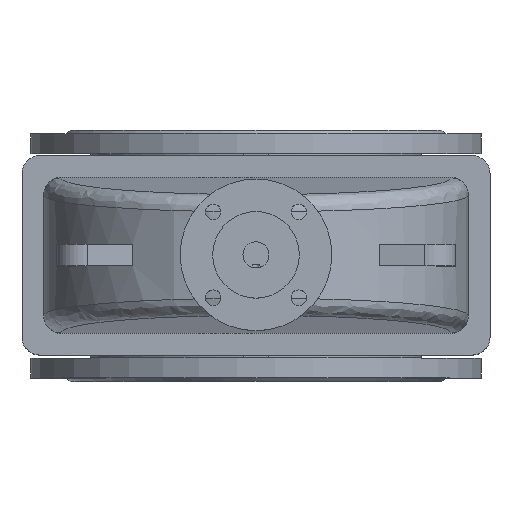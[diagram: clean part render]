
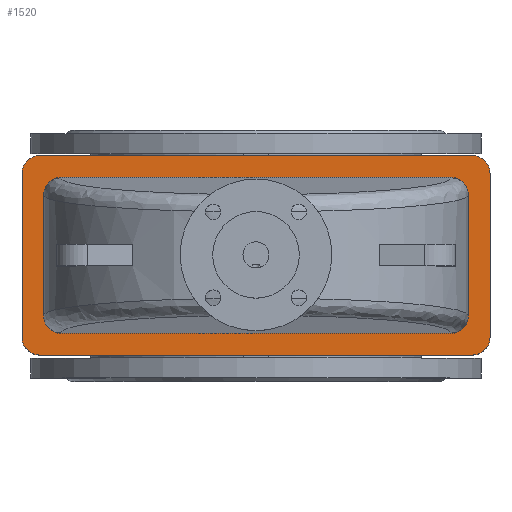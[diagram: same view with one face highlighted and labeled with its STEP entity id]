
A CAD part, top view. The second image highlights one B-rep face of the part: STEP entity #1520.
In plain terms, the highlighted planar face has unit normal (0, 0, 1).
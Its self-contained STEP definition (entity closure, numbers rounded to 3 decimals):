
#1520=ADVANCED_FACE('',(#3805,#3807),#3809,.T.);
#3805=FACE_BOUND('',#3806,.T.);
#3806=EDGE_LOOP('',(#5539,#5540,#5541,#5542,#5543,#5544,#5545,#5546));
#3807=FACE_BOUND('',#3808,.T.);
#3808=EDGE_LOOP('',(#5547,#5548,#5549,#5550,#5551,#5552,#5553,#5554));
#3809=PLANE('',#3810);
#3810=AXIS2_PLACEMENT_3D('',#3811,#3812,#3813);
#3811=CARTESIAN_POINT('',(0.,0.,416.));
#3812=DIRECTION('',(0.,-0.,1.));
#3813=DIRECTION('',(0.,1.,0.));
#5539=ORIENTED_EDGE('',*,*,#6086,.F.);
#5540=ORIENTED_EDGE('',*,*,#6099,.T.);
#5541=ORIENTED_EDGE('',*,*,#6098,.F.);
#5542=ORIENTED_EDGE('',*,*,#6096,.T.);
#5543=ORIENTED_EDGE('',*,*,#6094,.F.);
#5544=ORIENTED_EDGE('',*,*,#6092,.T.);
#5545=ORIENTED_EDGE('',*,*,#6090,.F.);
#5546=ORIENTED_EDGE('',*,*,#6087,.T.);
#5547=ORIENTED_EDGE('',*,*,#6100,.F.);
#5548=ORIENTED_EDGE('',*,*,#6101,.F.);
#5549=ORIENTED_EDGE('',*,*,#6102,.F.);
#5550=ORIENTED_EDGE('',*,*,#6103,.F.);
#5551=ORIENTED_EDGE('',*,*,#6104,.F.);
#5552=ORIENTED_EDGE('',*,*,#6105,.F.);
#5553=ORIENTED_EDGE('',*,*,#6106,.F.);
#5554=ORIENTED_EDGE('',*,*,#6107,.F.);
#6086=EDGE_CURVE('',#6815,#6813,#6817,.F.);
#6087=EDGE_CURVE('',#6818,#6813,#6819,.T.);
#6090=EDGE_CURVE('',#6818,#6821,#6823,.F.);
#6092=EDGE_CURVE('',#6824,#6821,#6826,.T.);
#6094=EDGE_CURVE('',#6824,#6827,#6829,.F.);
#6096=EDGE_CURVE('',#6830,#6827,#6832,.T.);
#6098=EDGE_CURVE('',#6830,#6833,#6835,.F.);
#6099=EDGE_CURVE('',#6815,#6833,#6836,.T.);
#6100=EDGE_CURVE('',#6837,#6838,#6839,.F.);
#6101=EDGE_CURVE('',#6840,#6837,#6841,.T.);
#6102=EDGE_CURVE('',#6842,#6840,#6843,.T.);
#6103=EDGE_CURVE('',#6844,#6842,#6845,.T.);
#6104=EDGE_CURVE('',#6846,#6844,#6847,.F.);
#6105=EDGE_CURVE('',#6848,#6846,#6849,.T.);
#6106=EDGE_CURVE('',#6850,#6848,#6851,.T.);
#6107=EDGE_CURVE('',#6838,#6850,#6852,.T.);
#6813=VERTEX_POINT('',#8540);
#6815=VERTEX_POINT('',#8544);
#6817=CIRCLE('',#8548,20.);
#6818=VERTEX_POINT('',#8552);
#6819=LINE('',#8553,#8554);
#6821=VERTEX_POINT('',#8559);
#6823=CIRCLE('',#8563,20.);
#6824=VERTEX_POINT('',#8567);
#6826=LINE('',#8571,#8572);
#6827=VERTEX_POINT('',#8574);
#6829=CIRCLE('',#8578,20.);
#6830=VERTEX_POINT('',#8582);
#6832=LINE('',#8586,#8587);
#6833=VERTEX_POINT('',#8589);
#6835=CIRCLE('',#8593,20.);
#6836=LINE('',#8597,#8598);
#6837=VERTEX_POINT('',#8600);
#6838=VERTEX_POINT('',#8601);
#6839=(BOUNDED_CURVE()B_SPLINE_CURVE(3,
(#8602,#8603,#8604,#8605),
.UNSPECIFIED.,.F.,.F.)B_SPLINE_CURVE_WITH_KNOTS((4,4),
(0.,1.),
.UNSPECIFIED.)CURVE()GEOMETRIC_REPRESENTATION_ITEM()RATIONAL_B_SPLINE_CURVE((1.,
0.805,0.805,1.))REPRESENTATION_ITEM(''));
#6840=VERTEX_POINT('',#8606);
#6841=LINE('',#8607,#8608);
#6842=VERTEX_POINT('',#8610);
#6843=(BOUNDED_CURVE()B_SPLINE_CURVE(3,
(#8611,#8612,#8613,#8614),
.UNSPECIFIED.,.F.,.F.)B_SPLINE_CURVE_WITH_KNOTS((4,4),
(0.,1.),
.UNSPECIFIED.)CURVE()GEOMETRIC_REPRESENTATION_ITEM()RATIONAL_B_SPLINE_CURVE((1.,
0.805,0.805,1.))REPRESENTATION_ITEM(''));
#6844=VERTEX_POINT('',#8615);
#6845=LINE('',#8616,#8617);
#6846=VERTEX_POINT('',#8619);
#6847=(BOUNDED_CURVE()B_SPLINE_CURVE(3,
(#8620,#8621,#8622,#8623),
.UNSPECIFIED.,.F.,.F.)B_SPLINE_CURVE_WITH_KNOTS((4,4),
(0.,1.),
.UNSPECIFIED.)CURVE()GEOMETRIC_REPRESENTATION_ITEM()RATIONAL_B_SPLINE_CURVE((1.,
0.805,0.805,1.))REPRESENTATION_ITEM(''));
#6848=VERTEX_POINT('',#8624);
#6849=LINE('',#8625,#8626);
#6850=VERTEX_POINT('',#8628);
#6851=(BOUNDED_CURVE()B_SPLINE_CURVE(3,
(#8629,#8630,#8631,#8632),
.UNSPECIFIED.,.F.,.F.)B_SPLINE_CURVE_WITH_KNOTS((4,4),
(0.,1.),
.UNSPECIFIED.)CURVE()GEOMETRIC_REPRESENTATION_ITEM()RATIONAL_B_SPLINE_CURVE((1.,
0.805,0.805,1.))REPRESENTATION_ITEM(''));
#6852=LINE('',#8633,#8634);
#8540=CARTESIAN_POINT('',(-270.,-95.,416.));
#8544=CARTESIAN_POINT('',(-250.,-115.,416.));
#8548=AXIS2_PLACEMENT_3D('',#8549,#8550,#8551);
#8549=CARTESIAN_POINT('',(-250.,-95.,416.));
#8550=DIRECTION('',(0.,-0.,1.));
#8551=DIRECTION('',(-1.,0.,0.));
#8552=CARTESIAN_POINT('',(-270.,95.,416.));
#8553=CARTESIAN_POINT('',(-270.,95.,416.));
#8554=VECTOR('',#8555,1.);
#8555=DIRECTION('',(0.,-1.,0.));
#8559=CARTESIAN_POINT('',(-250.,115.,416.));
#8563=AXIS2_PLACEMENT_3D('',#8564,#8565,#8566);
#8564=CARTESIAN_POINT('',(-250.,95.,416.));
#8565=DIRECTION('',(0.,-0.,1.));
#8566=DIRECTION('',(0.,1.,0.));
#8567=CARTESIAN_POINT('',(250.,115.,416.));
#8571=CARTESIAN_POINT('',(250.,115.,416.));
#8572=VECTOR('',#8573,1.);
#8573=DIRECTION('',(-1.,0.,0.));
#8574=CARTESIAN_POINT('',(270.,95.,416.));
#8578=AXIS2_PLACEMENT_3D('',#8579,#8580,#8581);
#8579=CARTESIAN_POINT('',(250.,95.,416.));
#8580=DIRECTION('',(0.,-0.,1.));
#8581=DIRECTION('',(1.,0.,0.));
#8582=CARTESIAN_POINT('',(270.,-95.,416.));
#8586=CARTESIAN_POINT('',(270.,-95.,416.));
#8587=VECTOR('',#8588,1.);
#8588=DIRECTION('',(0.,1.,0.));
#8589=CARTESIAN_POINT('',(250.,-115.,416.));
#8593=AXIS2_PLACEMENT_3D('',#8594,#8595,#8596);
#8594=CARTESIAN_POINT('',(250.,-95.,416.));
#8595=DIRECTION('',(0.,-0.,1.));
#8596=DIRECTION('',(0.,-1.,0.));
#8597=CARTESIAN_POINT('',(-250.,-115.,416.));
#8598=VECTOR('',#8599,1.);
#8599=DIRECTION('',(1.,0.,0.));
#8600=CARTESIAN_POINT('',(225.,-90.,416.));
#8601=CARTESIAN_POINT('',(245.,-69.924,416.));
#8602=CARTESIAN_POINT('',(245.,-69.924,416.));
#8603=CARTESIAN_POINT('',(245.,-81.684,416.));
#8604=CARTESIAN_POINT('',(236.716,-90.,416.));
#8605=CARTESIAN_POINT('',(225.,-90.,416.));
#8606=CARTESIAN_POINT('',(-225.,-90.,416.));
#8607=CARTESIAN_POINT('',(-225.,-90.,416.));
#8608=VECTOR('',#8609,1.);
#8609=DIRECTION('',(1.,0.,0.));
#8610=CARTESIAN_POINT('',(-245.,-69.924,416.));
#8611=CARTESIAN_POINT('',(-245.,-69.924,416.));
#8612=CARTESIAN_POINT('',(-245.,-81.684,416.));
#8613=CARTESIAN_POINT('',(-236.716,-90.,416.));
#8614=CARTESIAN_POINT('',(-225.,-90.,416.));
#8615=CARTESIAN_POINT('',(-245.,69.924,416.));
#8616=CARTESIAN_POINT('',(-245.,69.924,416.));
#8617=VECTOR('',#8618,1.);
#8618=DIRECTION('',(0.,-1.,0.));
#8619=CARTESIAN_POINT('',(-225.,90.,416.));
#8620=CARTESIAN_POINT('',(-245.,69.924,416.));
#8621=CARTESIAN_POINT('',(-245.,81.684,416.));
#8622=CARTESIAN_POINT('',(-236.716,90.,416.));
#8623=CARTESIAN_POINT('',(-225.,90.,416.));
#8624=CARTESIAN_POINT('',(225.,90.,416.));
#8625=CARTESIAN_POINT('',(225.,90.,416.));
#8626=VECTOR('',#8627,1.);
#8627=DIRECTION('',(-1.,0.,0.));
#8628=CARTESIAN_POINT('',(245.,69.924,416.));
#8629=CARTESIAN_POINT('',(245.,69.924,416.));
#8630=CARTESIAN_POINT('',(245.,81.684,416.));
#8631=CARTESIAN_POINT('',(236.716,90.,416.));
#8632=CARTESIAN_POINT('',(225.,90.,416.));
#8633=CARTESIAN_POINT('',(245.,-69.924,416.));
#8634=VECTOR('',#8635,1.);
#8635=DIRECTION('',(0.,1.,0.));
